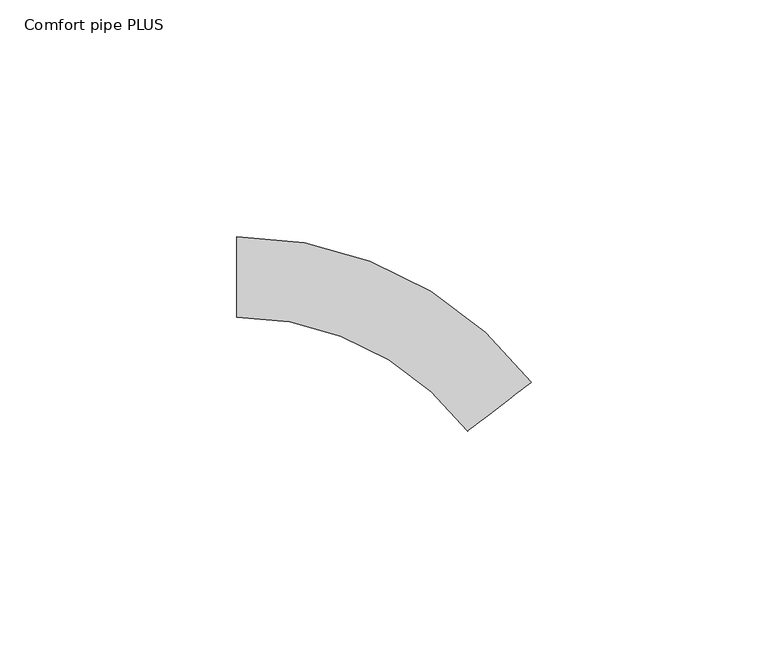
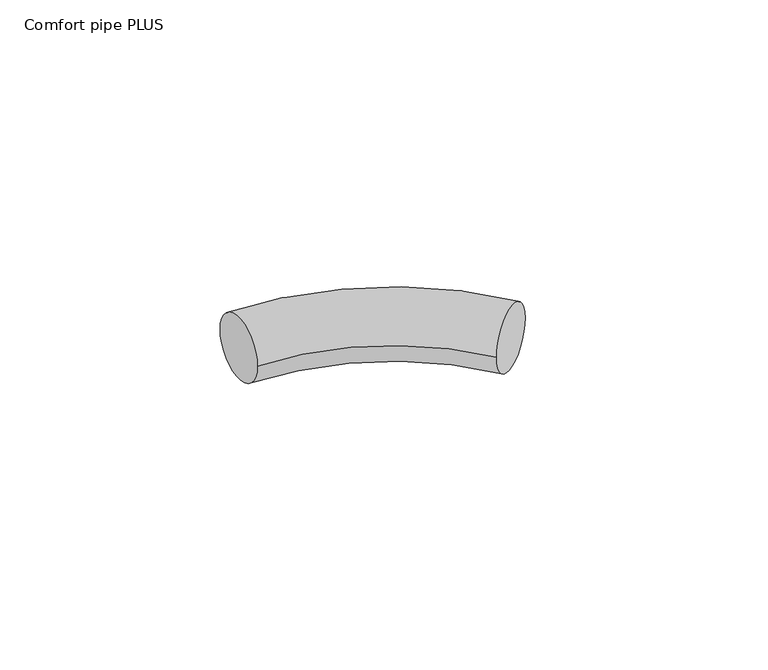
"""IFC4 building model written with IfcOpenShell, lengths in millimetres: pipe fitting geometry, 400_5-_Uponor_curved_Elbow : Comfort pipe PLUS."""

from ifc_helpers import new_model, si_unit, point, frame, origin, place, context, project, spatial, circle_curve, ellipse_curve, trimmed, source, transform, mapped, element, save
from ifc_brep_helpers import plane_surface, revolved_surface, advanced_brep


def comfort_pipe_plus_56b5b84a(model_context):
    return source(origin(), model_context, "Body", "AdvancedBrep", [
        advanced_brep(
        [(-34.5487759, 8.5, 0.0), (-34.5487759, -8.5, 0.0), (27.7608491, -22.253161, 0.0), (14.2670449, -32.5932408, 0.0)],
        [
            (0, 1, circle_curve(frame((-34.5487759, 0.0, 0.0), z_axis=(-1.0, 0.0, 0.0), x_axis=(0.0, -1.0, 0.0)), 8.5)),
            (1, 0, circle_curve(frame((-34.5487759, 0.0, 0.0), z_axis=(-1.0, 0.0, 0.0), x_axis=(0.0, -1.0, 0.0)), 8.5)),
            (2, 3, circle_curve(frame((21.013947, -27.4232009, 0.0), z_axis=(0.6082399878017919, -0.7937531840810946, 0.0), x_axis=(-0.7937531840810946, -0.6082399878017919, 0.0)), 8.5)),
            (3, 2, circle_curve(frame((21.013947, -27.4232009, 0.0), z_axis=(0.6082399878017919, -0.7937531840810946, 0.0), x_axis=(-0.7937531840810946, -0.6082399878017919, 0.0)), 8.5)),
            (2, 0, circle_curve(frame((-34.5487759, -70.0, 0.0), z_axis=(0.0, 0.0, 1.0), x_axis=(0.0, 1.0, 0.0)), 78.5)),
            (1, 3, circle_curve(frame((-34.5487759, -70.0, 0.0), z_axis=(0.0, 0.0, -1.0), x_axis=(0.0, 1.0, 0.0)), 61.5)),
        ],
        [
            plane_surface(frame((-34.5487759, 0.0, 0.0), z_axis=(-1.0, 0.0, 0.0), x_axis=(0.0, 0.0, 1.0))),
            plane_surface(frame((21.013947, -27.4232009, 0.0), z_axis=(0.6082399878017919, -0.7937531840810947, 0.0), x_axis=(0.0, 0.0, 1.0))),
            revolved_surface(trimmed(ellipse_curve(frame((-34.5487759, 0.0, 0.0), z_axis=(1.0, 0.0, 0.0), x_axis=(0.0, -1.0, 0.0)), 8.5, 8.5), [point((-34.5487759, 8.5, 0.0))], [point((-34.5487759, -8.5, 0.0))], True, "CARTESIAN"), (-34.5487759, -70.0, 0.0), (0.0, 0.0, 1.0)),
            revolved_surface(trimmed(ellipse_curve(frame((-34.5487759, 0.0, 0.0), z_axis=(1.0, 0.0, 0.0), x_axis=(0.0, -1.0, 0.0)), 8.5, 8.5), [point((-34.5487759, -8.5, 0.0))], [point((-34.5487759, 8.5, 0.0))], True, "CARTESIAN"), (-34.5487759, -70.0, 0.0), (0.0, 0.0, 1.0)),
        ],
        [
            (0, [[1, 2]]),
            (1, [[3, 4]]),
            (2, [[-3, 5, -2, 6]]),
            (3, [[-4, -6, -1, -5]]),
        ],
    ),
    ])


if __name__ == "__main__":
    model = new_model("IFC4")
    model_context = context("Model", 3, world=origin())
    ifc_project = project(units=[si_unit("LENGTHUNIT", "METRE", prefix="MILLI")], contexts=[model_context])
    site = spatial("IfcSite", under=ifc_project)
    building = spatial("IfcBuilding", under=site)
    placement = place(None, origin())
    comfort_pipe_plus_shape = comfort_pipe_plus_56b5b84a(model_context)
    element("IfcPipeFitting", 1, ObjectType="400_5-_Uponor_curved_Elbow : Comfort pipe PLUS", at=placement, inside=building, context=model_context, shape_type="MappedRepresentation", body=[
        mapped(comfort_pipe_plus_shape, transform((0.0, 0.0, 0.0), x_axis=(1.0, 0.0, 0.0), y_axis=(0.0, 1.0, 0.0), z_axis=(0.0, 0.0, 1.0))),
    ])
    save(model, "model.ifc")
